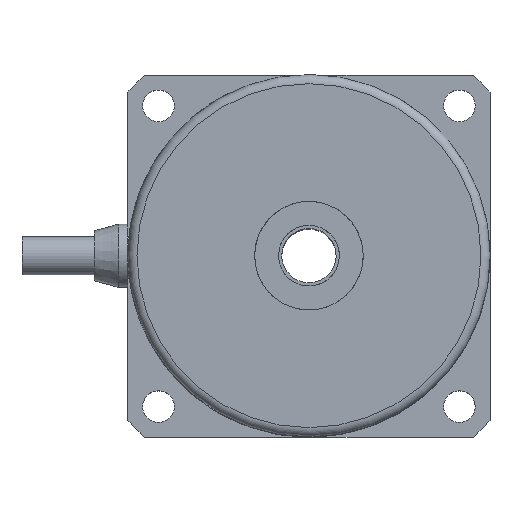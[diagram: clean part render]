
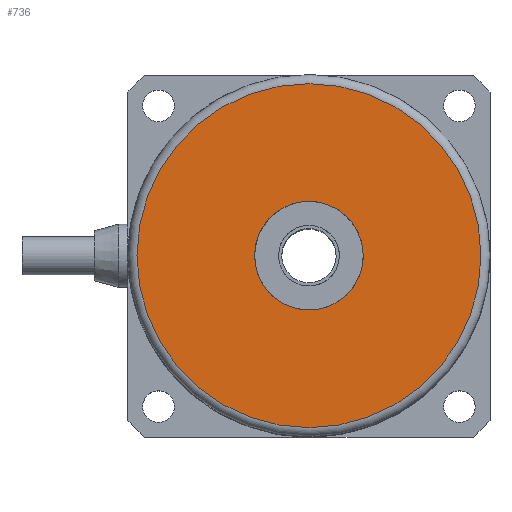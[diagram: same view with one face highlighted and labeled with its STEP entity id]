
A CAD part, top view. The second image highlights one B-rep face of the part: STEP entity #736.
In plain terms, the highlighted planar face has unit normal (0, 0, 1) as drawn and (0, 0, -1) by its records, which use the part's own axes.
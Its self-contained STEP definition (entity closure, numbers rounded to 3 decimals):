
#736=ADVANCED_FACE('',(#1433,#1434),#1435,.F.);
#1433=FACE_BOUND('',#2258,.T.);
#1434=FACE_OUTER_BOUND('',#2259,.T.);
#1435=PLANE('',#2260);
#2258=EDGE_LOOP('',(#3461));
#2259=EDGE_LOOP('',(#3462));
#2260=AXIS2_PLACEMENT_3D('',#3463,#3464,#3465);
#3461=ORIENTED_EDGE('',*,*,#4619,.T.);
#3462=ORIENTED_EDGE('',*,*,#4609,.T.);
#3463=CARTESIAN_POINT('',(0.0,0.0,0.0));
#3464=DIRECTION('',(0.0,0.0,1.0));
#3465=DIRECTION('',(1.0,0.0,0.0));
#4609=EDGE_CURVE('',#5343,#5343,#5344,.F.);
#4619=EDGE_CURVE('',#5357,#5357,#5358,.T.);
#5343=VERTEX_POINT('',#6584);
#5344=CIRCLE('',#6585,19.0);
#5357=VERTEX_POINT('',#6598);
#5358=CIRCLE('',#6599,6.0);
#6584=CARTESIAN_POINT('',(19.0,0.,0.0));
#6585=AXIS2_PLACEMENT_3D('',#7957,#7958,#7959);
#6598=CARTESIAN_POINT('',(-6.0,0.0,0.0));
#6599=AXIS2_PLACEMENT_3D('',#7969,#7970,#7971);
#7957=CARTESIAN_POINT('',(0.0,0.0,0.0));
#7958=DIRECTION('',(0.0,0.0,1.0));
#7959=DIRECTION('',(1.0,0.0,0.0));
#7969=CARTESIAN_POINT('',(0.0,0.0,0.0));
#7970=DIRECTION('',(0.0,0.0,1.0));
#7971=DIRECTION('',(-1.0,0.0,0.0));
